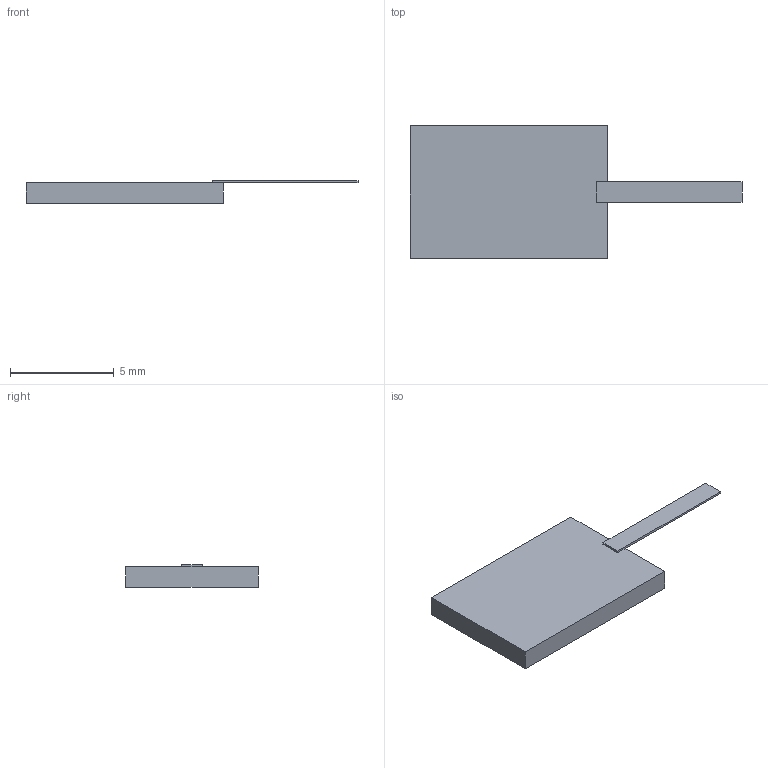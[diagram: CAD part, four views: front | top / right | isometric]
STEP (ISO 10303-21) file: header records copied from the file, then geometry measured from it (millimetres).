
FILE_DESCRIPTION(('STEP AP203'), '1');
FILE_NAME('P1-170-150-36', '', ('UNSPECIFIED'), ('UNSPECIFIED'), 'ASCON STEP Converter 1.6', 'ASCON Math Kernel', '');
FILE_SCHEMA(('CONFIG_CONTROL_DESIGN'));
Length unit declared in the file: millimetre
Bounding box: 16 x 6.4 x 1.1 mm (x, y, z)
Volume: 61.5 mm3; surface area: 168 mm2
Topology: 1 solids, 1 shells, 12 faces, 28 edges, 18 vertices
Faces by surface type: plane 12
Entity records: 476 total; most frequent: CARTESIAN_POINT 59, ORIENTED_EDGE 56, DIRECTION 54, EDGE_CURVE 28, LINE 28, VECTOR 28, VERTEX_POINT 18, AXIS2_PLACEMENT_3D 13
